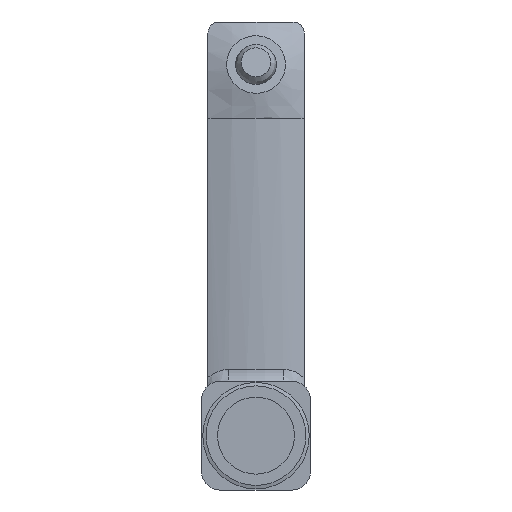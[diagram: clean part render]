
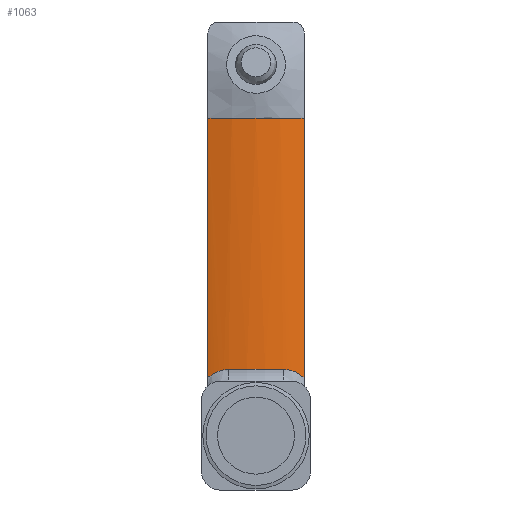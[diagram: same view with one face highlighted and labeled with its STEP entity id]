
A CAD part, front view. The second image highlights one B-rep face of the part: STEP entity #1063.
In plain terms, the highlighted cylindrical face has radius 76.76 mm (diameter 153.521 mm), a partial arc.
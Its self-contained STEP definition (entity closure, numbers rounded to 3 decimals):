
#116=LINE('',#1825,#191);
#118=LINE('',#1996,#193);
#191=VECTOR('',#1383,10.);
#193=VECTOR('',#1399,10.);
#236=CYLINDRICAL_SURFACE('',#1173,76.76);
#278=FACE_OUTER_BOUND('',#342,.T.);
#342=EDGE_LOOP('',(#862,#863,#864,#865,#866,#867));
#390=B_SPLINE_CURVE_WITH_KNOTS('',3,(#1893,#1894,#1895,#1896,#1897),
 .UNSPECIFIED.,.F.,.F.,(4,1,4),(2.264,2.666,3.395),
 .UNSPECIFIED.);
#392=B_SPLINE_CURVE_WITH_KNOTS('',3,(#1989,#1990,#1991,#1992,#1993),
 .UNSPECIFIED.,.F.,.F.,(4,1,4),(10.141,11.235,11.273),
 .UNSPECIFIED.);
#419=CIRCLE('',#1172,76.76);
#420=CIRCLE('',#1174,76.76);
#508=VERTEX_POINT('',#1813);
#509=VERTEX_POINT('',#1824);
#511=VERTEX_POINT('',#1871);
#514=VERTEX_POINT('',#1882);
#515=VERTEX_POINT('',#1899);
#517=VERTEX_POINT('',#1995);
#636=EDGE_CURVE('',#508,#509,#116,.T.);
#642=EDGE_CURVE('',#514,#511,#390,.T.);
#645=EDGE_CURVE('',#511,#515,#419,.T.);
#647=EDGE_CURVE('',#515,#508,#392,.T.);
#648=EDGE_CURVE('',#517,#514,#118,.T.);
#649=EDGE_CURVE('',#509,#517,#420,.T.);
#862=ORIENTED_EDGE('',*,*,#647,.F.);
#863=ORIENTED_EDGE('',*,*,#645,.F.);
#864=ORIENTED_EDGE('',*,*,#642,.F.);
#865=ORIENTED_EDGE('',*,*,#648,.F.);
#866=ORIENTED_EDGE('',*,*,#649,.F.);
#867=ORIENTED_EDGE('',*,*,#636,.F.);
#1063=ADVANCED_FACE('',(#278),#236,.T.);
#1172=AXIS2_PLACEMENT_3D('',#1903,#1395,#1396);
#1173=AXIS2_PLACEMENT_3D('',#1994,#1397,#1398);
#1174=AXIS2_PLACEMENT_3D('',#1997,#1400,#1401);
#1383=DIRECTION('',(0.,0.,1.));
#1395=DIRECTION('center_axis',(0.,0.,
-1.));
#1396=DIRECTION('ref_axis',(0.,-1.,0.));
#1397=DIRECTION('center_axis',(0.,0.,
1.));
#1398=DIRECTION('ref_axis',(-0.277,-0.961,0.));
#1399=DIRECTION('',(0.,0.,-1.));
#1400=DIRECTION('center_axis',(0.,0.,
1.));
#1401=DIRECTION('ref_axis',(-0.277,-0.961,0.));
#1813=CARTESIAN_POINT('',(-55.75,-27.5,33.565));
#1824=CARTESIAN_POINT('',(-55.75,-27.5,148.25));
#1825=CARTESIAN_POINT('',(-55.75,-27.5,160.75));
#1871=CARTESIAN_POINT('',(-22.501,-29.556,37.25));
#1882=CARTESIAN_POINT('',(-13.25,-27.5,33.565));
#1893=CARTESIAN_POINT('Ctrl Pts',(-13.25,-27.499,33.565));
#1894=CARTESIAN_POINT('Ctrl Pts',(-14.162,-27.762,34.4));
#1895=CARTESIAN_POINT('Ctrl Pts',(-16.985,-28.526,36.399));
#1896=CARTESIAN_POINT('Ctrl Pts',(-20.326,-29.212,37.25));
#1897=CARTESIAN_POINT('Ctrl Pts',(-22.501,-29.556,37.25));
#1899=CARTESIAN_POINT('',(-46.499,-29.556,37.25));
#1903=CARTESIAN_POINT('Origin',(-34.5,46.26,37.25));
#1989=CARTESIAN_POINT('Ctrl Pts',(-46.499,-29.556,37.25));
#1990=CARTESIAN_POINT('Ctrl Pts',(-49.761,-29.04,37.25));
#1991=CARTESIAN_POINT('Ctrl Pts',(-53.072,-28.264,35.959));
#1992=CARTESIAN_POINT('Ctrl Pts',(-55.665,-27.525,33.642));
#1993=CARTESIAN_POINT('Ctrl Pts',(-55.749,-27.5,33.564));
#1994=CARTESIAN_POINT('Origin',(-34.5,46.26,29.25));
#1995=CARTESIAN_POINT('',(-13.25,-27.5,148.25));
#1996=CARTESIAN_POINT('',(-13.25,-27.5,160.75));
#1997=CARTESIAN_POINT('Origin',(-34.5,46.26,148.25));
